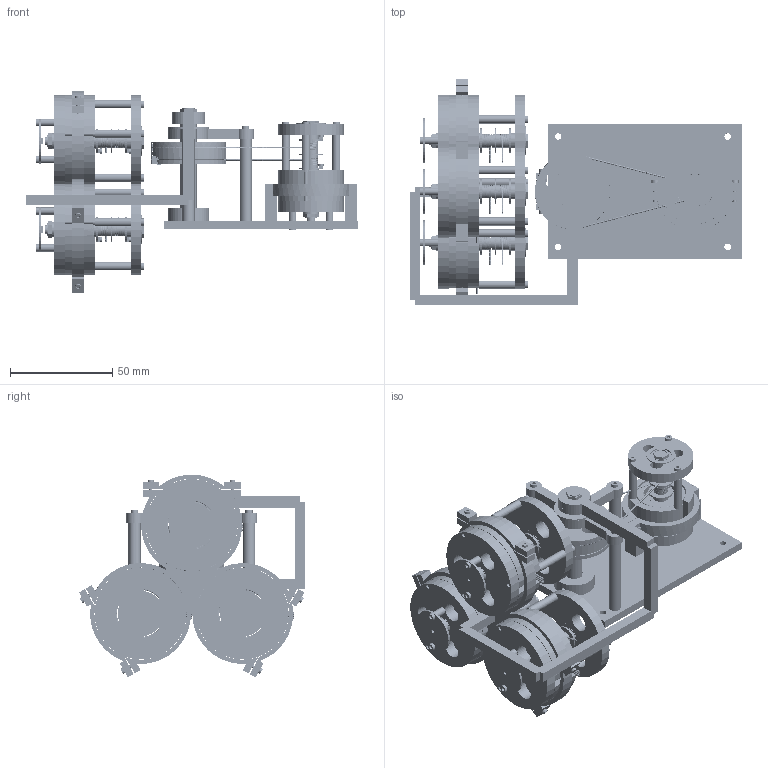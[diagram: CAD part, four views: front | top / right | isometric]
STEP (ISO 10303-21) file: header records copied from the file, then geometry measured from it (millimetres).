
FILE_DESCRIPTION(('Open CASCADE Model'),'2;1');
FILE_NAME('Open CASCADE Shape Model','2026-11-03T08:07:02',('Author'),( 'Open CASCADE'),'Open CASCADE STEP processor 7.9','Open CASCADE 7.9' ,'Unknown');
FILE_SCHEMA(('AUTOMOTIVE_DESIGN { 1 0 10303 214 1 1 1 1 }'));
Length unit declared in the file: millimetre
Products named in the file (193): abduction_cradle; abd_fixed_backplate; abd_rearè½´æ¿_outer; abd_rearè½´æ¿_inner; abd_rearè½´æ¿_shields; abd_rear_retainer; abd_body_column_0; abd_body_bolt_0; abd_body_column_1; abd_body_bolt_1; abd_body_column_2; abd_body_bolt_2; abd_front_bridge; abd_frontè½´æ¿_outer; abd_frontè½´æ¿_inner; abd_frontè½´æ¿_shields; abd_front_retainer; abd_pulley; abd_anchor_A; abd_anchor_plate_A; abd_anchor_plate_screw_A; abd_adjust_A; abd_adjust_lock_A; abd_adjust_washer_A; abd_anchor_B; abd_anchor_plate_B; abd_anchor_plate_screw_B; abd_adjust_B; abd_adjust_lock_B; abd_adjust_washer_B; abd_shaft; abd_torque_pin; abd_shaft_spacers; abd_locknut_0; abd_locknut_1; abd_ri20_clamp_screw_40.5; abd_ri20_clamp_screw_79.5; abd_ri20_fixed_saddle; abd_ri20_fixed_cap; abd_ri30_clamp_bolt_0_0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
Assembly tree (192 placements, depth 2):
  abduction_cradle
    abd_fixed_backplate
    abd_rearè½´æ¿_outer
    abd_rearè½´æ¿_inner
    abd_rearè½´æ¿_shields
    abd_rear_retainer
    abd_body_column_0
    abd_body_bolt_0
    abd_body_column_1
    abd_body_bolt_1
    abd_body_column_2
    abd_body_bolt_2
    abd_front_bridge
    abd_frontè½´æ¿_outer
    abd_frontè½´æ¿_inner
    abd_frontè½´æ¿_shields
    abd_front_retainer
    abd_pulley
    abd_anchor_A
    abd_anchor_plate_A
    abd_anchor_plate_screw_A
    abd_adjust_A
    abd_adjust_lock_A
    abd_adjust_washer_A
    abd_anchor_B
    abd_anchor_plate_B
    abd_anchor_plate_screw_B
    abd_adjust_B
    abd_adjust_lock_B
    abd_adjust_washer_B
    abd_shaft
    abd_torque_pin
    abd_shaft_spacers
    abd_locknut_0
    abd_locknut_1
    abd_ri20_clamp_screw_40.5
    abd_ri20_clamp_screw_79.5
    abd_ri20_fixed_saddle
    abd_ri20_fixed_cap
    abd_ri30_clamp_bolt_0_0
    abd_ri30_clamp_bolt_0_1
    abd_ri30_cap_0
    abd_ri30_clamp_bolt_1_0
    abd_ri30_clamp_bolt_1_1
    abd_ri30_cap_1
    abd_ri30_clamp_bolt_2_0
    abd_ri30_clamp_bolt_2_1
    abd_ri30_cap_2
    abd_rotating_cradle
    abd_cradle_pin
    abd_cable_0
    abd_cable_1
    fixed_ri20_housing
    fixed_ri20_rear_cover
    fixed_ri20_rear_outer
    fixed_ri20_rear_inner
    fixed_ri20_rear_shields
    fixed_ri20_official_0
    fixed_ri20_official_1
    fixed_ri20_official_2
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Bounding box: 162.5 x 110.68 x 99.28 mm (x, y, z)
Volume: 187139.8 mm3; surface area: 154798 mm2
Topology: 218 solids, 218 shells, 2311 faces, 4761 edges, 3055 vertices
Faces by surface type: plane 1413, cylinder 829, torus 49, bspline 20
Full cylindrical faces by diameter (mm): 1 x2, 1.2 x2, 1.3 x2, 1.4 x8, 1.5 x14, 1.58 x6, 1.6 x18, 1.76 x12, 1.8 x2, 2 x27, 2.1 x86, 2.16 x2, 2.2 x12, 2.3 x3, 2.4 x9, 2.52 x8, 2.88 x6, 3.2 x28, 3.22 x20, 3.6 x35, 4 x16, 4.06 x4, 4.2 x2, 5.2 x2, 6 x30, 6.02 x5, 6.04 x20, 6.8 x37, 7.6 x16, 7.8 x3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
Entity records: 283574 total; most frequent: CARTESIAN_POINT 177331, DIRECTION 19916, LINE 9597, VECTOR 9597, ORIENTED_EDGE 9522, PCURVE 9522, DEFINITIONAL_REPRESENTATION 9522, EDGE_CURVE 4761
